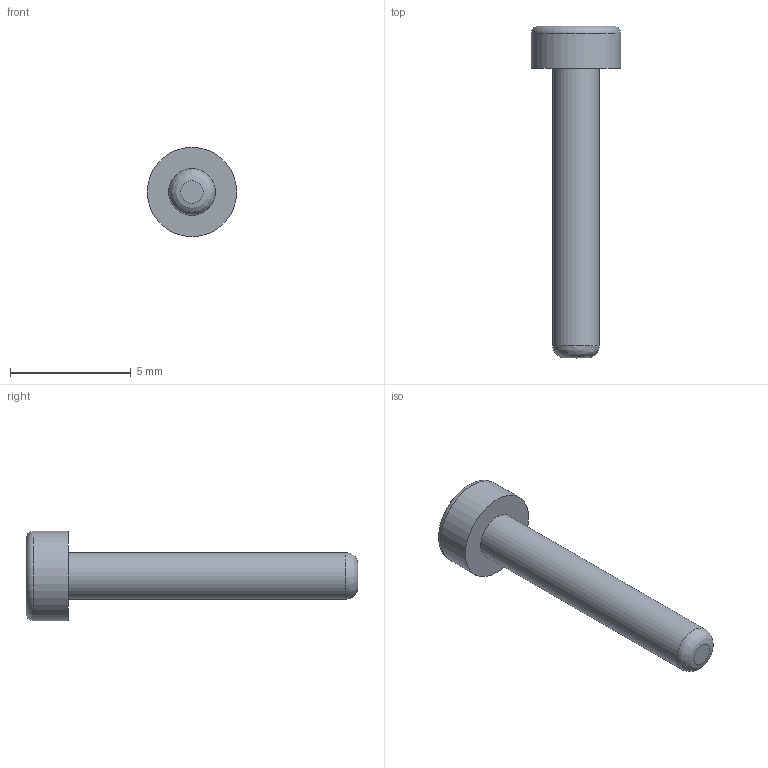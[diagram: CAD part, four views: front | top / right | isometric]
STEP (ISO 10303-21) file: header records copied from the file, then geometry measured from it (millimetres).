
FILE_DESCRIPTION(/* description */ (''),/* implementation_level */ '2;1');
FILE_NAME(/* name */ 'C:/Users/priba/Documents/Temp/Bolt2-12.step',/* time_stamp */ '2020-04-08T12:46:09+02:00',/* author */ (''),/* organization */ (''),/* preprocessor_version */ 'ST-DEVELOPER v18',/* originating_system */ 'Autodesk Translation Framework v8.12.0.6',/* authorisation */ '');
FILE_SCHEMA (('AUTOMOTIVE_DESIGN { 1 0 10303 214 3 1 1 }'));
Length unit declared in the file: millimetre
Products named in the file (1): Bolt2-12
Bounding box: 3.7 x 13.75 x 3.7 mm (x, y, z)
Volume: 50.8 mm3; surface area: 122.2 mm2
Topology: 1 solids, 1 shells, 20 faces, 52 edges, 36 vertices
Faces by surface type: plane 16, cylinder 2, bspline 1, torus 1
Full cylindrical faces by diameter (mm): 1.933 x1, 3.7 x1
Entity records: 677 total; most frequent: CARTESIAN_POINT 135, DIRECTION 106, ORIENTED_EDGE 104, EDGE_CURVE 52, LINE 38, VECTOR 38, VERTEX_POINT 36, AXIS2_PLACEMENT_3D 34
